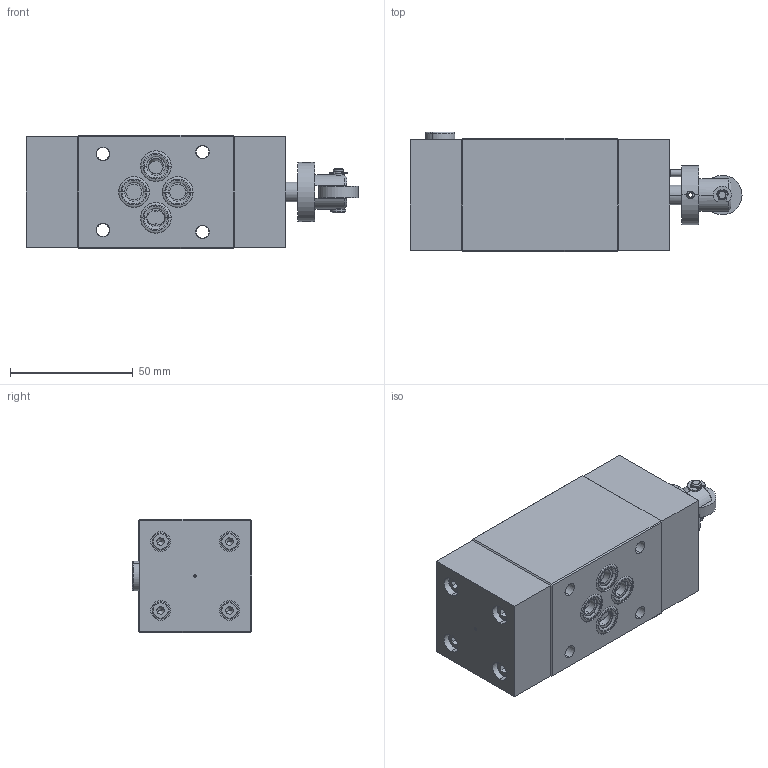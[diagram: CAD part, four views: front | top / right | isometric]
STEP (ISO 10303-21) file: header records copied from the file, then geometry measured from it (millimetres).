
FILE_DESCRIPTION (( 'STEP AP214' ), '1' );
FILE_NAME ('AT4.6.Bside.STEP', '2017-03-06T06:33:16', ( '' ), ( '' ), 'SwSTEP 2.0', 'SolidWorks 2016', '' );
FILE_SCHEMA (( 'AUTOMOTIVE_DESIGN' ));
Length unit declared in the file: millimetre
Products named in the file (1): AT4.6.Bside
Bounding box: 135 x 48.5 x 46 mm (x, y, z)
Volume: 216689.2 mm3; surface area: 38423.5 mm2
Topology: 11 solids, 20 shells, 1466 faces, 3973 edges, 2576 vertices
Faces by surface type: plane 712, cylinder 593, cone 72, bspline 51, torus 34, sphere 4
Entity records: 64685 total; most frequent: CARTESIAN_POINT 10998, DIRECTION 8013, ORIENTED_EDGE 7898, EDGE_CURVE 3949, AXIS2_PLACEMENT_3D 2849, VERTEX_POINT 2576, LINE 2315, VECTOR 2315
